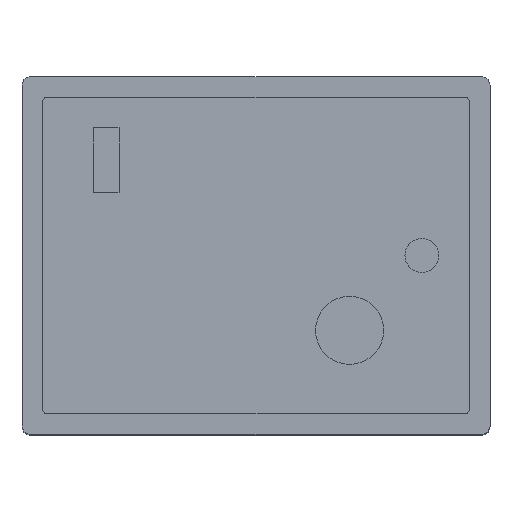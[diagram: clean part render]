
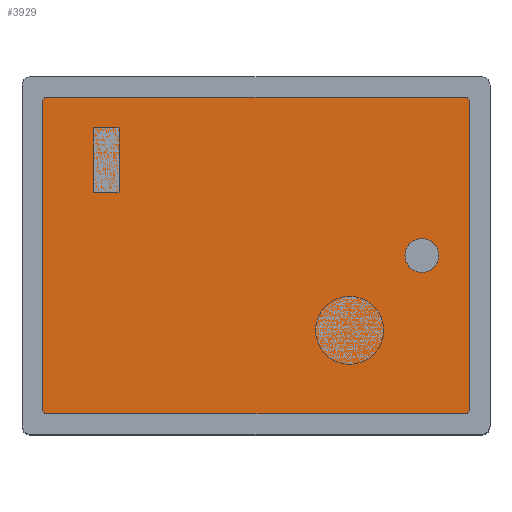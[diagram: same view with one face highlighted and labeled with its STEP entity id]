
A CAD part, top view. The second image highlights one B-rep face of the part: STEP entity #3929.
In plain terms, the highlighted planar face has unit normal (0, 0, 1).
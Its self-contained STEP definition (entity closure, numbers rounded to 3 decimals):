
#2773=PLANE('',#22645);
#3028=FACE_BOUND('',#6445,.T.);
#3029=FACE_BOUND('',#6446,.T.);
#3929=ADVANCED_FACE('',(#3028,#3029),#2773,.T.);
#6445=EDGE_LOOP('',(#15419));
#6446=EDGE_LOOP('',(#15420,#15421,#15422,#15423,#15424,#15425,#15426,#15427));
#8483=LINE('',#40233,#10483);
#8487=LINE('',#40241,#10487);
#8489=LINE('',#40245,#10489);
#8492=LINE('',#40251,#10492);
#10483=VECTOR('',#27359,1.);
#10487=VECTOR('',#27365,1.);
#10489=VECTOR('',#27369,1.);
#10492=VECTOR('',#27374,1.);
#15419=ORIENTED_EDGE('',*,*,#20551,.F.);
#15420=ORIENTED_EDGE('',*,*,#20543,.F.);
#15421=ORIENTED_EDGE('',*,*,#20552,.T.);
#15422=ORIENTED_EDGE('',*,*,#20545,.F.);
#15423=ORIENTED_EDGE('',*,*,#20553,.T.);
#15424=ORIENTED_EDGE('',*,*,#20548,.F.);
#15425=ORIENTED_EDGE('',*,*,#20554,.T.);
#15426=ORIENTED_EDGE('',*,*,#20539,.F.);
#15427=ORIENTED_EDGE('',*,*,#20555,.T.);
#17949=VERTEX_POINT('',#40234);
#17950=VERTEX_POINT('',#40235);
#17951=VERTEX_POINT('',#40240);
#17952=VERTEX_POINT('',#40242);
#17953=VERTEX_POINT('',#40246);
#17954=VERTEX_POINT('',#40247);
#17955=VERTEX_POINT('',#40252);
#17956=VERTEX_POINT('',#40253);
#17957=VERTEX_POINT('',#40258);
#20539=EDGE_CURVE('',#17949,#17950,#8483,.T.);
#20543=EDGE_CURVE('',#17951,#17952,#8487,.T.);
#20545=EDGE_CURVE('',#17953,#17954,#8489,.T.);
#20548=EDGE_CURVE('',#17955,#17956,#8492,.T.);
#20551=EDGE_CURVE('',#17957,#17957,#21236,.T.);
#20552=EDGE_CURVE('',#17951,#17954,#21237,.T.);
#20553=EDGE_CURVE('',#17953,#17956,#21238,.T.);
#20554=EDGE_CURVE('',#17955,#17950,#21239,.T.);
#20555=EDGE_CURVE('',#17949,#17952,#21240,.T.);
#21236=CIRCLE('',#22640,1.);
#21237=CIRCLE('',#22641,0.3);
#21238=CIRCLE('',#22642,0.3);
#21239=CIRCLE('',#22643,0.3);
#21240=CIRCLE('',#22644,0.3);
#22640=AXIS2_PLACEMENT_3D('',#40257,#27379,#27380);
#22641=AXIS2_PLACEMENT_3D('',#40259,#27381,#27382);
#22642=AXIS2_PLACEMENT_3D('',#40260,#27383,#27384);
#22643=AXIS2_PLACEMENT_3D('',#40261,#27385,#27386);
#22644=AXIS2_PLACEMENT_3D('',#40262,#27387,#27388);
#22645=AXIS2_PLACEMENT_3D('',#40263,#27389,#27390);
#27359=DIRECTION('',(0.,1.,0.));
#27365=DIRECTION('',(-1.,0.,0.));
#27369=DIRECTION('',(0.,-1.,0.));
#27374=DIRECTION('',(1.,0.,0.));
#27379=DIRECTION('',(0.,0.,1.));
#27380=DIRECTION('',(0.,1.,0.));
#27381=DIRECTION('',(0.,0.,1.));
#27382=DIRECTION('',(1.,0.,0.));
#27383=DIRECTION('',(0.,0.,1.));
#27384=DIRECTION('',(1.,0.,0.));
#27385=DIRECTION('',(0.,0.,1.));
#27386=DIRECTION('',(1.,0.,0.));
#27387=DIRECTION('',(0.,0.,1.));
#27388=DIRECTION('',(1.,0.,0.));
#27389=DIRECTION('',(0.,0.,1.));
#27390=DIRECTION('',(1.,0.,0.));
#40233=CARTESIAN_POINT('',(11.916,25.9,60.646));
#40234=CARTESIAN_POINT('',(11.916,1.1,60.646));
#40235=CARTESIAN_POINT('',(11.916,25.6,60.646));
#40240=CARTESIAN_POINT('',(30.216,0.8,60.646));
#40241=CARTESIAN_POINT('',(11.916,0.8,60.646));
#40242=CARTESIAN_POINT('',(12.216,0.8,60.646));
#40245=CARTESIAN_POINT('',(30.516,0.8,60.646));
#40246=CARTESIAN_POINT('',(30.516,25.6,60.646));
#40247=CARTESIAN_POINT('',(30.516,1.1,60.646));
#40251=CARTESIAN_POINT('',(30.516,25.9,60.646));
#40252=CARTESIAN_POINT('',(12.216,25.9,60.646));
#40253=CARTESIAN_POINT('',(30.216,25.9,60.646));
#40257=CARTESIAN_POINT('',(21.216,3.6,60.646));
#40258=CARTESIAN_POINT('',(21.216,4.6,60.646));
#40259=CARTESIAN_POINT('',(30.216,1.1,60.646));
#40260=CARTESIAN_POINT('',(30.216,25.6,60.646));
#40261=CARTESIAN_POINT('',(12.216,25.6,60.646));
#40262=CARTESIAN_POINT('',(12.216,1.1,60.646));
#40263=CARTESIAN_POINT('',(0.,0.,60.646));
